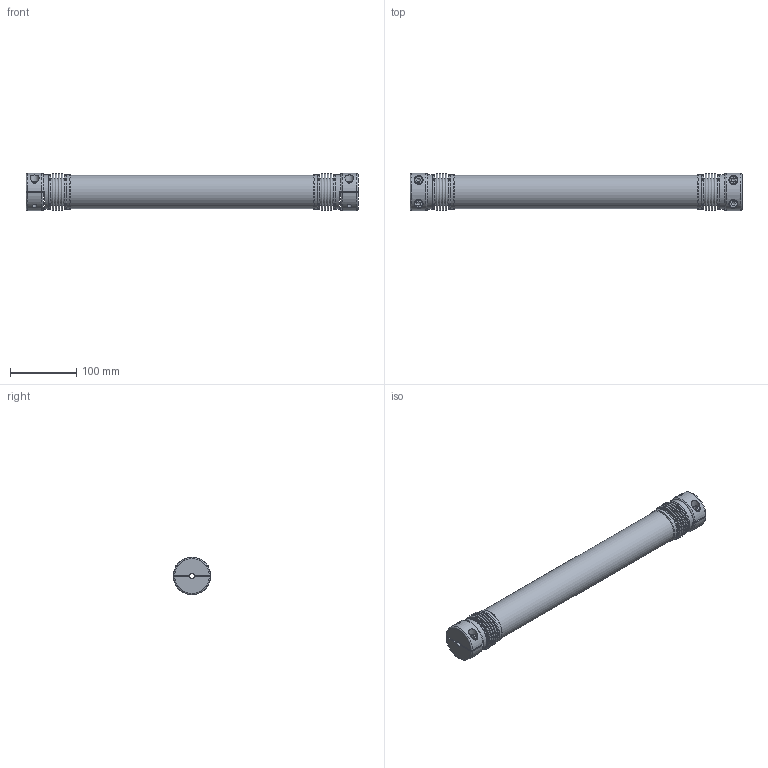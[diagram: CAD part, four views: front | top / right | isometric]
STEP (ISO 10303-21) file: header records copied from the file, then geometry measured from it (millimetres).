
FILE_DESCRIPTION( ( 'Unknown' ), '1' );
FILE_NAME( 'F:/PR/14_Step-Dateien/WD-HD/WD-HD 50 - L=0,5m.stp', 'Unknown', ( 'Unknown' ), ( 'Unknown' ), 'PSStep 10.1', 'Unknown', ' ' );
FILE_SCHEMA( ( 'AUTOMOTIVE_DESIGN { 1 0 10303 214 1 1 1 1 }' ) );
Length unit declared in the file: millimetre
Products named in the file (1): WD-HD 50
Bounding box: 500 x 55.99 x 56 mm (x, y, z)
Volume: 430473.2 mm3; surface area: 207028.6 mm2
Topology: 1 solids, 7 shells, 246 faces, 507 edges, 329 vertices
Faces by surface type: plane 132, torus 58, cylinder 48, cone 8
Full cylindrical faces by diameter (mm): 6.8 x4, 8 x4, 8.6 x4, 13 x4, 13.5 x4, 18 x2, 22 x2, 37.5 x2, 44.1 x1, 50 x1, 51.6 x6, 52 x2, 52.6 x4
Entity records: 8484 total; most frequent: CARTESIAN_POINT 1723, DIRECTION 1050, ORIENTED_EDGE 744, AXIS2_PLACEMENT_3D 455, EDGE_LOOP 416, EDGE_CURVE 372, FACE_OUTER_BOUND 336, VERTEX_POINT 296
